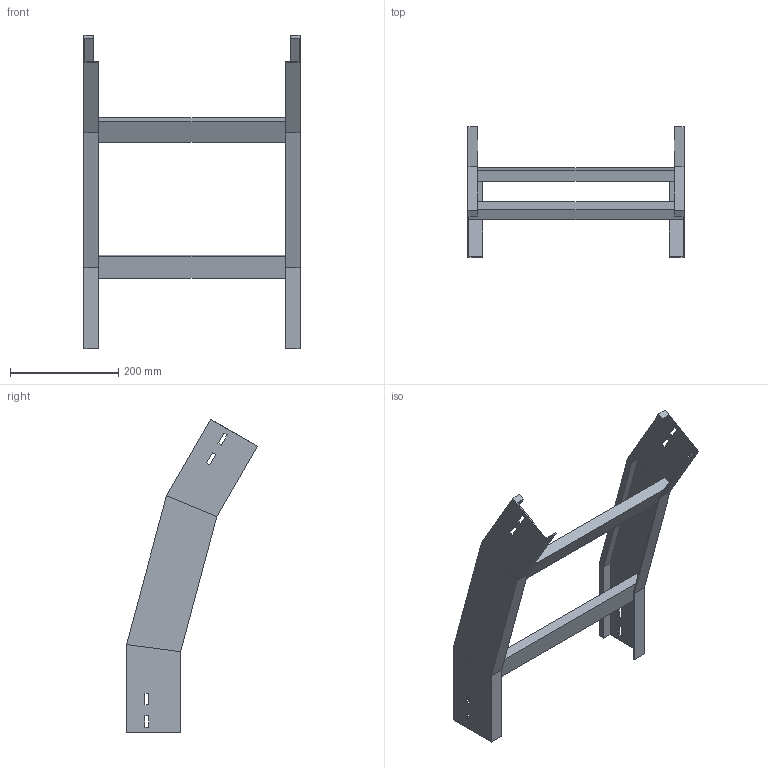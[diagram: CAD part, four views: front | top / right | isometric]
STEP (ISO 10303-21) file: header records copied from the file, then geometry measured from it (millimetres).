
FILE_DESCRIPTION (( 'STEP AP214' ), '1' );
FILE_NAME ('35B5D400.step', '2025-02-21T14:45:42', ( '' ), ( '' ), 'SwSTEP 2.0', 'SolidWorks 2023', '' );
FILE_SCHEMA (( 'AUTOMOTIVE_DESIGN' ));
Length unit declared in the file: millimetre
Products named in the file (3): LONGH.DISCESA_30°_H100_R500; TRAVERSINO_400; 35B5D400
Assembly tree (5 placements, depth 2):
  35B5D400
    LONGH.DISCESA_30°_H100_R500  x2
    TRAVERSINO_400  x3
Bounding box: 400 x 242.03 x 580.08 mm (x, y, z)
Volume: 1483565.4 mm3; surface area: 482551.6 mm2
Topology: 5 solids, 5 shells, 102 faces, 244 edges, 152 vertices
Faces by surface type: plane 102
Entity records: 1480 total; most frequent: CARTESIAN_POINT 244, ORIENTED_EDGE 232, DIRECTION 228, VECTOR 116, EDGE_CURVE 116, LINE 116, VERTEX_POINT 72, EDGE_LOOP 56
